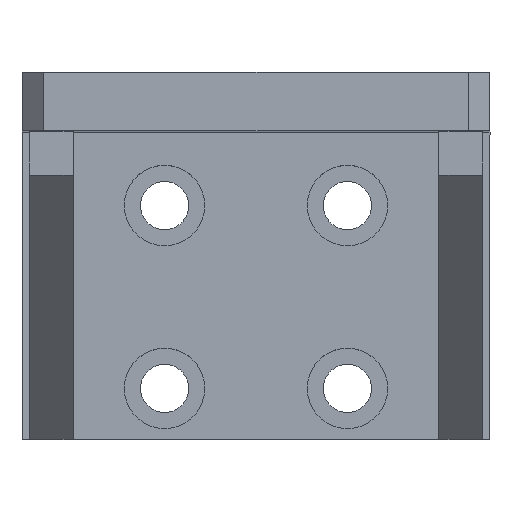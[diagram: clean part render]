
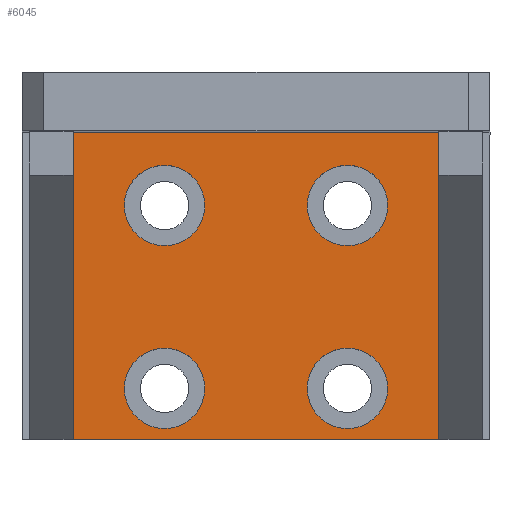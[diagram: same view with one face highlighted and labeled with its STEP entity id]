
A CAD part, top view. The second image highlights one B-rep face of the part: STEP entity #6045.
In plain terms, the highlighted planar face has unit normal (0, 0, 1).
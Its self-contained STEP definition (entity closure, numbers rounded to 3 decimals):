
#195=LINE($,#9571,#505);
#196=LINE($,#9573,#506);
#197=LINE($,#9575,#507);
#198=LINE($,#9576,#508);
#505=VECTOR($,#7706,42.);
#506=VECTOR($,#7707,50.);
#507=VECTOR($,#7708,42.);
#508=VECTOR($,#7709,50.);
#927=PLANE($,#6658);
#1341=FACE_BOUND($,#2229,.T.);
#1342=FACE_BOUND($,#2230,.T.);
#1343=FACE_BOUND($,#2231,.T.);
#1344=FACE_BOUND($,#2232,.T.);
#1702=FACE_OUTER_BOUND($,#2228,.T.);
#2228=EDGE_LOOP($,(#4736,#4737,#4738,#4739));
#2229=EDGE_LOOP($,(#4740));
#2230=EDGE_LOOP($,(#4741));
#2231=EDGE_LOOP($,(#4742));
#2232=EDGE_LOOP($,(#4743));
#2887=CIRCLE($,#6659,5.5);
#2888=CIRCLE($,#6660,5.5);
#2889=CIRCLE($,#6661,5.5);
#2890=CIRCLE($,#6662,5.5);
#3236=VERTEX_POINT($,#9569);
#3237=VERTEX_POINT($,#9570);
#3238=VERTEX_POINT($,#9572);
#3239=VERTEX_POINT($,#9574);
#3240=VERTEX_POINT($,#9577);
#3241=VERTEX_POINT($,#9579);
#3242=VERTEX_POINT($,#9581);
#3243=VERTEX_POINT($,#9583);
#3845=EDGE_CURVE($,#3236,#3237,#195,.T.);
#3846=EDGE_CURVE($,#3238,#3236,#196,.T.);
#3847=EDGE_CURVE($,#3239,#3238,#197,.T.);
#3848=EDGE_CURVE($,#3237,#3239,#198,.T.);
#3849=EDGE_CURVE($,#3240,#3240,#2887,.T.);
#3850=EDGE_CURVE($,#3241,#3241,#2888,.T.);
#3851=EDGE_CURVE($,#3242,#3242,#2889,.T.);
#3852=EDGE_CURVE($,#3243,#3243,#2890,.T.);
#4736=ORIENTED_EDGE($,*,*,#3845,.F.);
#4737=ORIENTED_EDGE($,*,*,#3846,.F.);
#4738=ORIENTED_EDGE($,*,*,#3847,.F.);
#4739=ORIENTED_EDGE($,*,*,#3848,.F.);
#4740=ORIENTED_EDGE($,*,*,#3849,.T.);
#4741=ORIENTED_EDGE($,*,*,#3850,.T.);
#4742=ORIENTED_EDGE($,*,*,#3851,.T.);
#4743=ORIENTED_EDGE($,*,*,#3852,.T.);
#6045=ADVANCED_FACE($,(#1702,#1341,#1342,#1343,#1344),#927,.F.);
#6658=AXIS2_PLACEMENT_3D($,#9568,#7704,#7705);
#6659=AXIS2_PLACEMENT_3D($,#9578,#7710,#7711);
#6660=AXIS2_PLACEMENT_3D($,#9580,#7712,#7713);
#6661=AXIS2_PLACEMENT_3D($,#9582,#7714,#7715);
#6662=AXIS2_PLACEMENT_3D($,#9584,#7716,#7717);
#7704=DIRECTION('center_axis',(0.,0.,
-1.));
#7705=DIRECTION('ref_axis',(1.,0.,0.));
#7706=DIRECTION($,(0.,1.,0.));
#7707=DIRECTION($,(-1.,0.,0.));
#7708=DIRECTION($,(0.,-1.,0.));
#7709=DIRECTION($,(1.,0.,0.));
#7710=DIRECTION('center_axis',(0.,0.,
-1.));
#7711=DIRECTION('ref_axis',(-1.,0.,0.));
#7712=DIRECTION('center_axis',(0.,0.,
-1.));
#7713=DIRECTION('ref_axis',(-1.,0.,0.));
#7714=DIRECTION('center_axis',(0.,0.,
-1.));
#7715=DIRECTION('ref_axis',(-1.,0.,0.));
#7716=DIRECTION('center_axis',(0.,0.,
-1.));
#7717=DIRECTION('ref_axis',(-1.,0.,0.));
#9568=CARTESIAN_POINT('Origin',(32.,-25.,0.));
#9569=CARTESIAN_POINT('',(7.,-50.,0.));
#9570=CARTESIAN_POINT('',(7.,-8.,0.));
#9571=CARTESIAN_POINT($,(7.,-50.,0.));
#9572=CARTESIAN_POINT('',(57.,-50.,0.));
#9573=CARTESIAN_POINT($,(64.,-50.,0.));
#9574=CARTESIAN_POINT('',(57.,-8.,0.));
#9575=CARTESIAN_POINT($,(57.,-50.,0.));
#9576=CARTESIAN_POINT($,(64.,-8.,0.));
#9577=CARTESIAN_POINT('',(14.,-18.,0.));
#9578=CARTESIAN_POINT('Origin',(19.5,-18.,0.));
#9579=CARTESIAN_POINT('',(39.,-43.,0.));
#9580=CARTESIAN_POINT('Origin',(44.5,-43.,0.));
#9581=CARTESIAN_POINT('',(14.,-43.,0.));
#9582=CARTESIAN_POINT('Origin',(19.5,-43.,0.));
#9583=CARTESIAN_POINT('',(39.,-18.,0.));
#9584=CARTESIAN_POINT('Origin',(44.5,-18.,0.));
